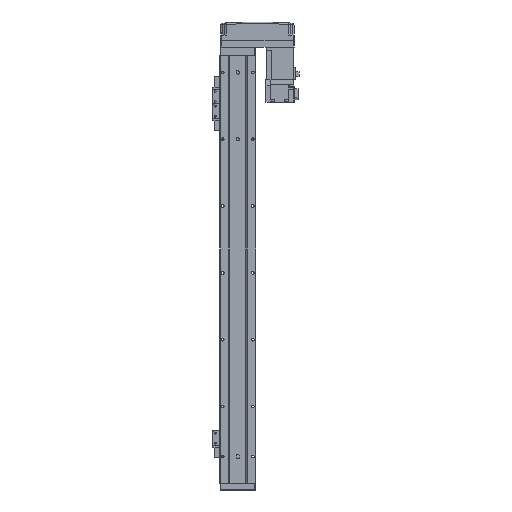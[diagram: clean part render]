
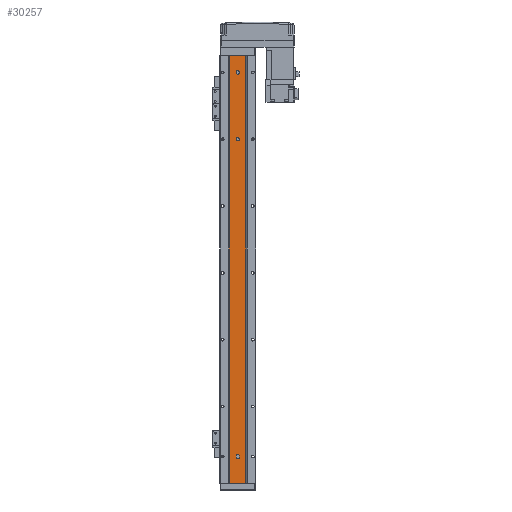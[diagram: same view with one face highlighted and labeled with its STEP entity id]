
A CAD part, front view. The second image highlights one B-rep face of the part: STEP entity #30257.
In plain terms, the highlighted planar face has unit normal (0, -1, 0).
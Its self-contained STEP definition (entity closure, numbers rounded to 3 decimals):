
#195 = EDGE_CURVE ( 'NONE', #23130, #4024, #18500, .T. ) ;
#542 = LINE ( 'NONE', #6581, #24739 ) ;
#1036 = DIRECTION ( 'NONE',  ( 0., -1., 0. ) ) ;
#1153 = ORIENTED_EDGE ( 'NONE', *, *, #37508, .F. ) ;
#1169 = DIRECTION ( 'NONE',  ( 1., 0., 0. ) ) ;
#1359 = VERTEX_POINT ( 'NONE', #32245 ) ;
#2143 = CARTESIAN_POINT ( 'NONE',  ( 0., 1.5, -25. ) ) ;
#2906 = DIRECTION ( 'NONE',  ( 0., -1., 0. ) ) ;
#3129 = CARTESIAN_POINT ( 'NONE',  ( -2.5, 1.5, -125. ) ) ;
#3459 = CARTESIAN_POINT ( 'NONE',  ( 2.5, 1.5, -25. ) ) ;
#3974 = CARTESIAN_POINT ( 'NONE',  ( 0., 1.5, -125. ) ) ;
#4024 = VERTEX_POINT ( 'NONE', #33940 ) ;
#4094 = VERTEX_POINT ( 'NONE', #20214 ) ;
#4762 = ORIENTED_EDGE ( 'NONE', *, *, #33505, .F. ) ;
#5149 = VECTOR ( 'NONE', #13138, 1000. ) ;
#5665 = FACE_BOUND ( 'NONE', #11698, .T. ) ;
#6182 = DIRECTION ( 'NONE',  ( 1., 0., 0. ) ) ;
#6297 = LINE ( 'NONE', #22450, #36346 ) ;
#6581 = CARTESIAN_POINT ( 'NONE',  ( 12.293, 1.5, -640. ) ) ;
#6985 = CARTESIAN_POINT ( 'NONE',  ( -2.5, 1.5, -640. ) ) ;
#7264 = CARTESIAN_POINT ( 'NONE',  ( -12.293, 1.5, 0. ) ) ;
#7484 = FACE_BOUND ( 'NONE', #22297, .T. ) ;
#7592 = DIRECTION ( 'NONE',  ( 0., -1., 0. ) ) ;
#8028 = VERTEX_POINT ( 'NONE', #7264 ) ;
#8131 = EDGE_CURVE ( 'NONE', #4094, #26787, #6297, .T. ) ;
#8562 = CARTESIAN_POINT ( 'NONE',  ( 2.5, 1.5, -599. ) ) ;
#9940 = CIRCLE ( 'NONE', #24464, 2.5 ) ;
#10084 = DIRECTION ( 'NONE',  ( 1., 0., 0. ) ) ;
#10277 = VECTOR ( 'NONE', #15833, 1000. ) ;
#10352 = CARTESIAN_POINT ( 'NONE',  ( 0., 1.5, -601. ) ) ;
#10680 = CARTESIAN_POINT ( 'NONE',  ( -12.293, 1.5, -640. ) ) ;
#10830 = DIRECTION ( 'NONE',  ( 1., 0., 0. ) ) ;
#11317 = VERTEX_POINT ( 'NONE', #3129 ) ;
#11698 = EDGE_LOOP ( 'NONE', ( #37432, #4762 ) ) ;
#12192 = LINE ( 'NONE', #37323, #34489 ) ;
#12221 = CARTESIAN_POINT ( 'NONE',  ( -2.5, 1.5, -25. ) ) ;
#12912 = DIRECTION ( 'NONE',  ( 0., -1., 0. ) ) ;
#13054 = EDGE_CURVE ( 'NONE', #20789, #11317, #23366, .T. ) ;
#13138 = DIRECTION ( 'NONE',  ( 0., 0., 1. ) ) ;
#13511 = EDGE_CURVE ( 'NONE', #33726, #35298, #542, .T. ) ;
#13834 = LINE ( 'NONE', #10680, #5149 ) ;
#13900 = AXIS2_PLACEMENT_3D ( 'NONE', #22715, #31579, #10830 ) ;
#14253 = AXIS2_PLACEMENT_3D ( 'NONE', #20367, #2906, #19853 ) ;
#14472 = VECTOR ( 'NONE', #16617, 1000. ) ;
#15767 = AXIS2_PLACEMENT_3D ( 'NONE', #21707, #12912, #10084 ) ;
#15833 = DIRECTION ( 'NONE',  ( 0., 0., -1. ) ) ;
#16413 = DIRECTION ( 'NONE',  ( 1., 0., 0. ) ) ;
#16617 = DIRECTION ( 'NONE',  ( 0., 0., 1. ) ) ;
#18414 = FACE_OUTER_BOUND ( 'NONE', #33383, .T. ) ;
#18500 = LINE ( 'NONE', #6985, #10277 ) ;
#18550 = EDGE_CURVE ( 'NONE', #33726, #8028, #13834, .T. ) ;
#18956 = EDGE_CURVE ( 'NONE', #29896, #36060, #26536, .T. ) ;
#19635 = DIRECTION ( 'NONE',  ( 0., 0., 1. ) ) ;
#19853 = DIRECTION ( 'NONE',  ( 1., 0., 0. ) ) ;
#20140 = PLANE ( 'NONE',  #13900 ) ;
#20214 = CARTESIAN_POINT ( 'NONE',  ( 2.5, 1.5, -601. ) ) ;
#20367 = CARTESIAN_POINT ( 'NONE',  ( 0., 1.5, -599. ) ) ;
#20457 = ORIENTED_EDGE ( 'NONE', *, *, #22437, .F. ) ;
#20789 = VERTEX_POINT ( 'NONE', #33009 ) ;
#21116 = CARTESIAN_POINT ( 'NONE',  ( 0., 1.5, -25. ) ) ;
#21211 = CIRCLE ( 'NONE', #14253, 2.5 ) ;
#21707 = CARTESIAN_POINT ( 'NONE',  ( 0., 1.5, -125. ) ) ;
#22297 = EDGE_LOOP ( 'NONE', ( #28239, #30535 ) ) ;
#22437 = EDGE_CURVE ( 'NONE', #8028, #1359, #12192, .T. ) ;
#22450 = CARTESIAN_POINT ( 'NONE',  ( 2.5, 1.5, -640. ) ) ;
#22715 = CARTESIAN_POINT ( 'NONE',  ( 12.293, 1.5, -640. ) ) ;
#23051 = CARTESIAN_POINT ( 'NONE',  ( -12.293, 1.5, -640. ) ) ;
#23126 = LINE ( 'NONE', #25181, #14472 ) ;
#23130 = VERTEX_POINT ( 'NONE', #28598 ) ;
#23366 = CIRCLE ( 'NONE', #15767, 2.5 ) ;
#23798 = DIRECTION ( 'NONE',  ( 0., -1., 0. ) ) ;
#24464 = AXIS2_PLACEMENT_3D ( 'NONE', #2143, #7592, #16413 ) ;
#24739 = VECTOR ( 'NONE', #29903, 1000. ) ;
#25181 = CARTESIAN_POINT ( 'NONE',  ( 12.293, 1.5, -640. ) ) ;
#25688 = CARTESIAN_POINT ( 'NONE',  ( 12.293, 1.5, -640. ) ) ;
#26142 = EDGE_CURVE ( 'NONE', #36060, #29896, #9940, .T. ) ;
#26191 = AXIS2_PLACEMENT_3D ( 'NONE', #10352, #30741, #27825 ) ;
#26203 = FACE_BOUND ( 'NONE', #30724, .T. ) ;
#26486 = EDGE_CURVE ( 'NONE', #4024, #4094, #30417, .T. ) ;
#26536 = CIRCLE ( 'NONE', #30684, 2.5 ) ;
#26787 = VERTEX_POINT ( 'NONE', #8562 ) ;
#27825 = DIRECTION ( 'NONE',  ( 1., 0., 0. ) ) ;
#28239 = ORIENTED_EDGE ( 'NONE', *, *, #18956, .F. ) ;
#28598 = CARTESIAN_POINT ( 'NONE',  ( -2.5, 1.5, -599. ) ) ;
#29551 = EDGE_CURVE ( 'NONE', #35298, #1359, #23126, .T. ) ;
#29592 = DIRECTION ( 'NONE',  ( 1., 0., 0. ) ) ;
#29736 = ORIENTED_EDGE ( 'NONE', *, *, #26486, .F. ) ;
#29890 = ORIENTED_EDGE ( 'NONE', *, *, #18550, .F. ) ;
#29896 = VERTEX_POINT ( 'NONE', #3459 ) ;
#29903 = DIRECTION ( 'NONE',  ( 1., 0., 0. ) ) ;
#30257 = ADVANCED_FACE ( 'NONE', ( #26203, #5665, #7484, #18414 ), #20140, .T. ) ;
#30328 = AXIS2_PLACEMENT_3D ( 'NONE', #3974, #1036, #1169 ) ;
#30417 = CIRCLE ( 'NONE', #26191, 2.5 ) ;
#30535 = ORIENTED_EDGE ( 'NONE', *, *, #26142, .F. ) ;
#30684 = AXIS2_PLACEMENT_3D ( 'NONE', #21116, #23798, #6182 ) ;
#30724 = EDGE_LOOP ( 'NONE', ( #29736, #36286, #1153, #36405 ) ) ;
#30741 = DIRECTION ( 'NONE',  ( 0., -1., 0. ) ) ;
#31579 = DIRECTION ( 'NONE',  ( 0., -1., 0. ) ) ;
#32245 = CARTESIAN_POINT ( 'NONE',  ( 12.293, 1.5, 0. ) ) ;
#33009 = CARTESIAN_POINT ( 'NONE',  ( 2.5, 1.5, -125. ) ) ;
#33383 = EDGE_LOOP ( 'NONE', ( #20457, #29890, #36062, #35174 ) ) ;
#33505 = EDGE_CURVE ( 'NONE', #11317, #20789, #36348, .T. ) ;
#33726 = VERTEX_POINT ( 'NONE', #23051 ) ;
#33940 = CARTESIAN_POINT ( 'NONE',  ( -2.5, 1.5, -601. ) ) ;
#34489 = VECTOR ( 'NONE', #29592, 1000. ) ;
#35174 = ORIENTED_EDGE ( 'NONE', *, *, #29551, .T. ) ;
#35298 = VERTEX_POINT ( 'NONE', #25688 ) ;
#36060 = VERTEX_POINT ( 'NONE', #12221 ) ;
#36062 = ORIENTED_EDGE ( 'NONE', *, *, #13511, .T. ) ;
#36286 = ORIENTED_EDGE ( 'NONE', *, *, #195, .F. ) ;
#36346 = VECTOR ( 'NONE', #19635, 1000. ) ;
#36348 = CIRCLE ( 'NONE', #30328, 2.5 ) ;
#36405 = ORIENTED_EDGE ( 'NONE', *, *, #8131, .F. ) ;
#37323 = CARTESIAN_POINT ( 'NONE',  ( 12.293, 1.5, 0. ) ) ;
#37432 = ORIENTED_EDGE ( 'NONE', *, *, #13054, .F. ) ;
#37508 = EDGE_CURVE ( 'NONE', #26787, #23130, #21211, .T. ) ;
